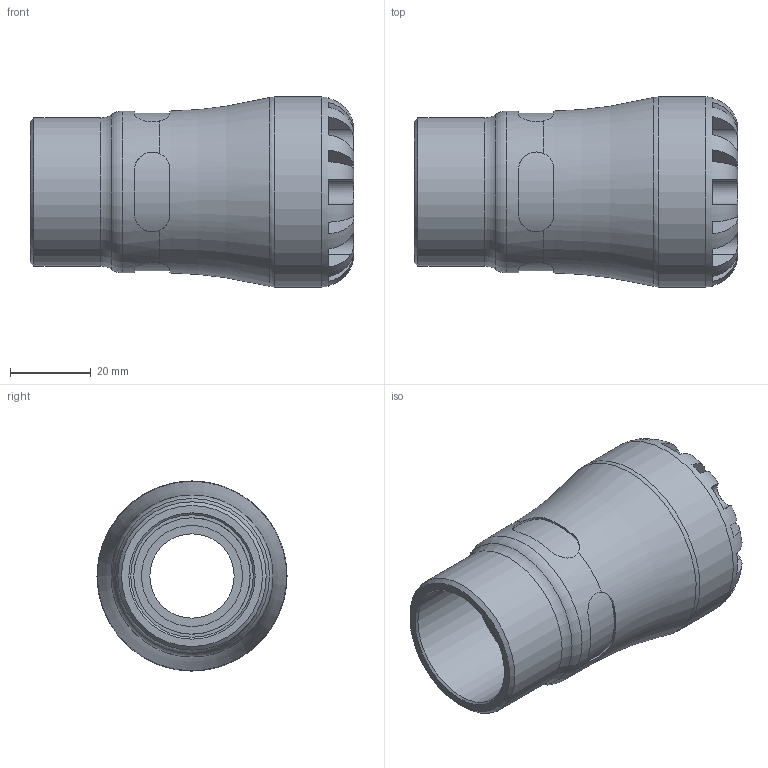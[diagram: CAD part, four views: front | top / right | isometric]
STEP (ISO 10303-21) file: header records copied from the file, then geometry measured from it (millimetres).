
FILE_DESCRIPTION(/* description */ ('PLASSON FEMALE ADAPTOR 25X1" SERIES 1'),/* implementation_level */ '2;1');
FILE_NAME(/* name */ 'C:\Dropbox\KIMPROJECTS-Inventor\99-16-3568-Processing\1003\100300025010_190300025010.ipt.step',/* time_stamp */ '2017-01-22T09:49:10+02:00',/* author */ ('KIM'),/* organization */ (''),/* preprocessor_version */ 'ST-DEVELOPER v15.6',/* originating_system */ 'Autodesk Inventor 2015',/* authorisation */ '');
FILE_SCHEMA (('AUTOMOTIVE_DESIGN { 1 0 10303 214 3 1 1 }'));
Length unit declared in the file: millimetre
Products named in the file (1): 100300025010_190300025010
Bounding box: 80 x 47 x 47 mm (x, y, z)
Volume: 61625.1 mm3; surface area: 19937.4 mm2
Topology: 1 solids, 1 shells, 106 faces, 269 edges, 169 vertices
Faces by surface type: plane 62, cylinder 36, torus 5, cone 3
Full cylindrical faces by diameter (mm): 20.833 x1, 25 x2, 28.776 x1, 30.291 x1, 36.66 x1, 39.95 x1, 47 x1
Entity records: 4016 total; most frequent: CARTESIAN_POINT 1489, ORIENTED_EDGE 496, DIRECTION 486, EDGE_CURVE 248, AXIS2_PLACEMENT_3D 203, VERTEX_POINT 164, EDGE_LOOP 128, STYLED_ITEM 107
